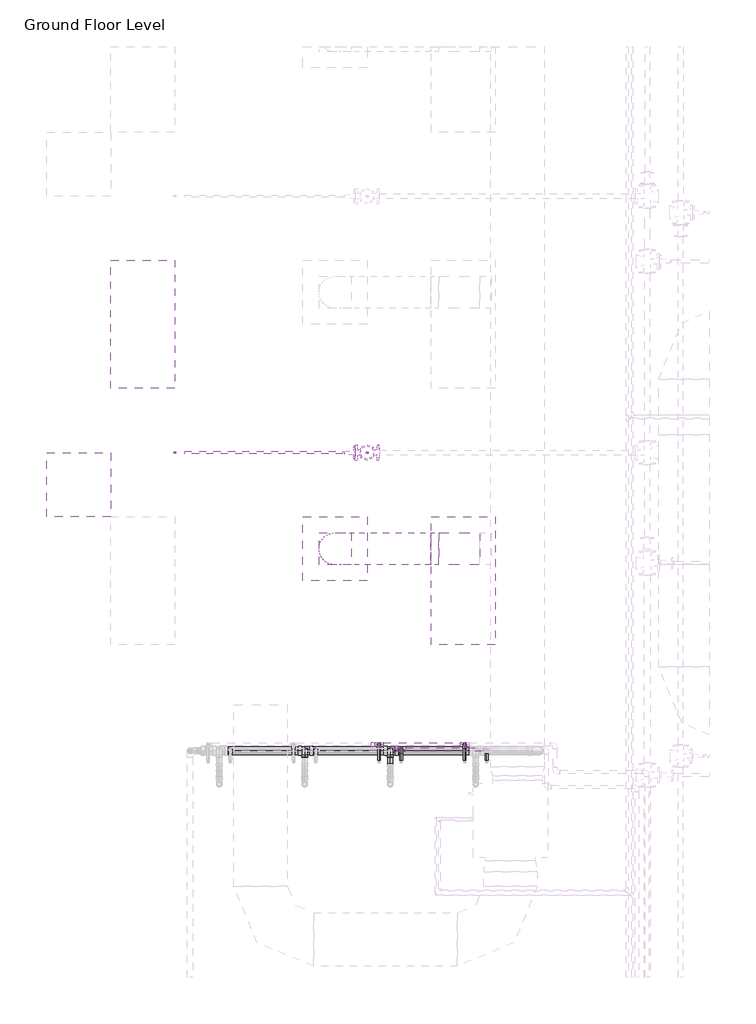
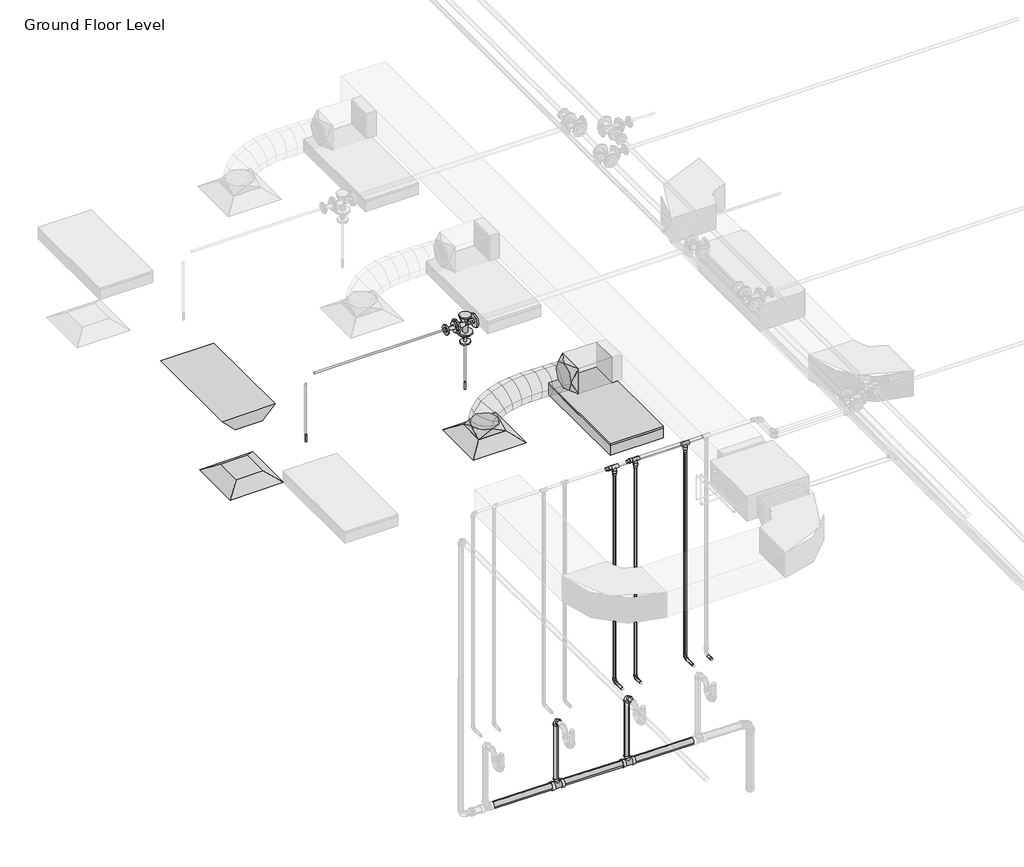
# One storey, part 24 of 74: 18 pipe fittings, 18 pipe segments, 2 air terminals, 2 duct fittings, 2 duct segments, 2 fire suppression terminals, 2 light fixtures.
"""IFC4 building model written with IfcOpenShell, lengths in millimetres."""

from ifc_helpers import new_model, si_unit, point, frame, frame_2d, origin, place, context, project, spatial, polyline, circle_curve, ellipse_curve, trimmed, segment, composite_curve, outline, extrude, transform, mapped, element, save
from ifc_brep_helpers import plane_surface, cylinder_surface, advanced_brep
from components import m_return_diffuser_600_x_600_face_300_x_300_connection_ff221211, m_rectangular_to_round_transition_angle_45_degree_641efff0, m_sprinkler_dry_pendent_hosted_15_mm_dry_pendent_9bda8e11, m_emergency_recessed_lighting_fixture_600x1200_277_5b10b25d, m_troffer_light_parabolic_rectangular1_0600x1200mm_4_lamp_86473d4a, m_bend_pvc_sch_40_dwv_standard_1e7bdcc1, m_bend_pvc_sch_40_dwv_standard_b3f66ba9, m_reducer_flanged_cs_class_150_standard_dc68ad9d, m_tee_reducing_sanitary_pvc_sch_40_dwv_standard_21d2848c, m_tee_round_base_flanged_cs_class_150_standard_ab36f383, standard_b266ab3f, standard_72b35c3b, standard_e954f56a, standard_e5aa6446

model = new_model("IFC4")

# Units and contexts
model_context = context("Model", 3, world=origin())
ifc_project = project(units=[si_unit("LENGTHUNIT", "METRE", prefix="MILLI")], contexts=[model_context])

# Site, building, storey
site = spatial("IfcSite", under=ifc_project)
building = spatial("IfcBuilding", under=site)
storey = spatial("IfcBuildingStorey", under=building, Name="Ground Floor Level", Elevation=900.0)

# Air terminals
placement = place(None, origin())
m_return_diffuser_600_x_600_face_300_x_300_connection_shape = m_return_diffuser_600_x_600_face_300_x_300_connection_ff221211(model_context)
element("IfcAirTerminal", 1, ObjectType="M_Return Diffuser : 600 x 600 Face 300 x 300 Connection", at=placement, inside=storey, context=model_context, shape_type="MappedRepresentation", body=[
    mapped(m_return_diffuser_600_x_600_face_300_x_300_connection_shape, transform((362.7672395, -21364.7846466, 3650.0), x_axis=(1.0, 0.0, 0.0), y_axis=(0.0, 1.0, 0.0), z_axis=(0.0, 0.0, 1.0))),
])
element("IfcAirTerminal", 2, ObjectType="M_Supply Diffuser : 600 x 600 Face 300 x 300 Connection", at=placement, inside=storey, context=model_context, shape_type="MappedRepresentation", body=[
    mapped(m_return_diffuser_600_x_600_face_300_x_300_connection_shape, transform((2762.7672395, -21964.7846466, 3650.0), x_axis=(1.0, 0.0, 0.0), y_axis=(0.0, 1.0, 0.0), z_axis=(0.0, 0.0, 1.0))),
])

# Duct fittings
m_rectangular_to_round_transition_angle_45_degree_shape = m_rectangular_to_round_transition_angle_45_degree_641efff0(model_context)
element("IfcDuctFitting", 3, ObjectType="M_Rectangular to Round Transition - Angle : 45 Degree", at=placement, inside=storey, context=model_context, shape_type="MappedRepresentation", body=[
    mapped(m_rectangular_to_round_transition_angle_45_degree_shape, transform((2762.7672395, -21964.7846466, 3751.6), x_axis=(0.0, 0.0, 1.0), y_axis=(-1.0, 0.0, 0.0), z_axis=(0.0, -1.0, 0.0))),
])
element("IfcDuctFitting", 4, ObjectType="M_Rectangular to Round Transition - Angle : 45 Degree", at=placement, inside=storey, context=model_context, shape_type="MappedRepresentation", body=[
    mapped(m_rectangular_to_round_transition_angle_45_degree_shape, transform((3732.9512129, -21964.7846466, 4057.1519579), x_axis=(-1.0, 0.0, 0.0), y_axis=(0.0, -1.0, 0.0), z_axis=(0.0, 0.0, 1.0))),
])

# Duct segments
element("IfcDuctSegment", 5, ObjectType="Flex - Round", at=placement, inside=storey, context=model_context, shape_type="AdvancedBrep", body=[
    advanced_brep(
    [(2912.7672395, -21964.7846466, 3826.6), (2762.7672395, -22114.7846466, 3826.6), (2612.7672395, -21964.7846466, 3826.6), (2762.7672395, -21814.7846466, 3826.6), (2912.7672395, -21964.7846466, 3832.8904143), (2762.7672395, -22114.7846466, 3856.8494149), (2612.7672395, -21964.7846466, 3880.8084155), (2762.7672395, -21814.7846466, 3856.8494149), (2914.0859082, -21964.7846466, 3836.9129923), (2779.5128239, -22114.7846466, 3907.9315565), (2644.9397396, -21964.7846466, 3978.9501208), (2779.5128239, -21814.7846466, 3907.9315565), (2928.1338147, -21964.7846466, 3855.2244817), (2826.2856906, -22114.7846466, 3968.9001322), (2724.4375665, -21964.7846466, 4082.5757828), (2826.2856906, -21814.7846466, 3968.9001322), (2960.075367, -21964.7846466, 3874.5779986), (2897.8900097, -22114.7846466, 4012.2854816), (2835.7046525, -21964.7846466, 4149.9929645), (2897.8900097, -21814.7846466, 4012.2854816), (3023.3471395, -21964.7846466, 3894.3985509), (2989.1299517, -22114.7846466, 4040.8673589), (2954.9127638, -21964.7846466, 4187.3361668), (2989.1299517, -21814.7846466, 4040.8673589), (3111.2174774, -21964.7846466, 3908.1662907), (3094.8096865, -22114.7846466, 4057.4255186), (3078.4018957, -21964.7846466, 4206.6847465), (3094.8096865, -21814.7846466, 4057.4255186), (3215.0370803, -21964.7846466, 3914.773779), (3209.7333846, -22114.7846466, 4064.7397152), (3204.4296888, -21964.7846466, 4214.7056514), (3209.7333846, -21814.7846466, 4064.7397152), (3327.4369923, -21964.7846466, 3915.576814), (3328.705216, -22114.7846466, 4065.589703), (3329.9734397, -21964.7846466, 4215.6025919), (3328.705216, -21814.7846466, 4065.589703), (3442.2113611, -21964.7846466, 3912.815715), (3446.529351, -22114.7846466, 4062.7552364), (3450.847341, -21964.7846466, 4212.6947579), (3446.529351, -21814.7846466, 4062.7552364), (3554.0566752, -21964.7846466, 3909.0643159), (3558.0099599, -22114.7846466, 4059.0160699), (3561.9632447, -21964.7846466, 4208.9678239), (3558.0099599, -21814.7846466, 4059.0160699), (3657.9512129, -21964.7846466, 3907.1519579), (3657.9512129, -21814.7846466, 4057.1519579), (3657.9512129, -21964.7846466, 4207.1519579), (3657.9512129, -22114.7846466, 4057.1519579), (3653.7148319, -21964.7846466, 3907.1519579), (3655.1538878, -22114.7846466, 4057.1519579), (3656.5929436, -21964.7846466, 4207.1519579), (3655.1538878, -21814.7846466, 4057.1519579)],
    [
        (0, 1, circle_curve(frame((2762.7672395, -21964.7846466, 3826.6), z_axis=(0.0, 0.0, -1.0), x_axis=(1.0, 0.0, 0.0)), 150.0)),
        (1, 2, circle_curve(frame((2762.7672395, -21964.7846466, 3826.6), z_axis=(0.0, 0.0, -1.0), x_axis=(1.0, 0.0, 0.0)), 150.0)),
        (2, 3, circle_curve(frame((2762.7672395, -21964.7846466, 3826.6), z_axis=(0.0, 0.0, -1.0), x_axis=(1.0, 0.0, 0.0)), 150.0)),
        (3, 0, circle_curve(frame((2762.7672395, -21964.7846466, 3826.6), z_axis=(0.0, 0.0, -1.0), x_axis=(1.0, 0.0, 0.0)), 150.0)),
        (0, 4),
        (4, 5, ellipse_curve(frame((2762.7672395, -21964.7846466, 3856.8494149), z_axis=(-0.1577273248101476, 0.0, -0.9874827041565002), x_axis=(0.9874827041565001, 0.0, -0.1577273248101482)), 151.9013947, 150.0)),
        (5, 1),
        (5, 6, ellipse_curve(frame((2762.7672395, -21964.7846466, 3856.8494149), z_axis=(-0.1577273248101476, 0.0, -0.9874827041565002), x_axis=(0.9874827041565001, 0.0, -0.1577273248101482)), 151.9013947, 150.0)),
        (6, 2),
        (6, 7, ellipse_curve(frame((2762.7672395, -21964.7846466, 3856.8494149), z_axis=(-0.1577273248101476, 0.0, -0.9874827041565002), x_axis=(0.9874827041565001, 0.0, -0.1577273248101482)), 151.9013947, 150.0)),
        (7, 3),
        (7, 4, ellipse_curve(frame((2762.7672395, -21964.7846466, 3856.8494149), z_axis=(-0.1577273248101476, 0.0, -0.9874827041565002), x_axis=(0.9874827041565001, 0.0, -0.1577273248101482)), 151.9013947, 150.0)),
        (4, 8),
        (8, 9, ellipse_curve(frame((2779.5128239, -21964.7846466, 3907.9315565), z_axis=(-0.46672716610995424, 0.0, -0.8844013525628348), x_axis=(0.8844013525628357, 0.0, -0.466727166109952)), 152.162911, 150.0)),
        (9, 5),
        (9, 10, ellipse_curve(frame((2779.5128239, -21964.7846466, 3907.9315565), z_axis=(-0.46672716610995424, 0.0, -0.8844013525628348), x_axis=(0.8844013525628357, 0.0, -0.466727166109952)), 152.162911, 150.0)),
        (10, 6),
        (10, 11, ellipse_curve(frame((2779.5128239, -21964.7846466, 3907.9315565), z_axis=(-0.46672716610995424, 0.0, -0.8844013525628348), x_axis=(0.8844013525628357, 0.0, -0.466727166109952)), 152.162911, 150.0)),
        (11, 7),
        (11, 8, ellipse_curve(frame((2779.5128239, -21964.7846466, 3907.9315565), z_axis=(-0.46672716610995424, 0.0, -0.8844013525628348), x_axis=(0.8844013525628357, 0.0, -0.466727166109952)), 152.162911, 150.0)),
        (8, 12),
        (12, 13, ellipse_curve(frame((2826.2856906, -21964.7846466, 3968.9001322), z_axis=(-0.744790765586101, 0.0, -0.6672980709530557), x_axis=(0.6672980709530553, 0.0, -0.7447907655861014)), 152.6276316, 150.0)),
        (13, 9),
        (13, 14, ellipse_curve(frame((2826.2856906, -21964.7846466, 3968.9001322), z_axis=(-0.744790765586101, 0.0, -0.6672980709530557), x_axis=(0.6672980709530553, 0.0, -0.7447907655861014)), 152.6276316, 150.0)),
        (14, 10),
        (14, 15, ellipse_curve(frame((2826.2856906, -21964.7846466, 3968.9001322), z_axis=(-0.744790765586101, 0.0, -0.6672980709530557), x_axis=(0.6672980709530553, 0.0, -0.7447907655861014)), 152.6276316, 150.0)),
        (15, 11),
        (15, 12, ellipse_curve(frame((2826.2856906, -21964.7846466, 3968.9001322), z_axis=(-0.744790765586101, 0.0, -0.6672980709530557), x_axis=(0.6672980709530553, 0.0, -0.7447907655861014)), 152.6276316, 150.0)),
        (12, 16),
        (16, 17, ellipse_curve(frame((2897.8900097, -21964.7846466, 4012.2854816), z_axis=(-0.9113833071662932, 0.0, -0.41155858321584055), x_axis=(0.41155858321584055, 0.0, -0.9113833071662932)), 151.0972187, 150.0)),
        (17, 13),
        (17, 18, ellipse_curve(frame((2897.8900097, -21964.7846466, 4012.2854816), z_axis=(-0.9113833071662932, 0.0, -0.41155858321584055), x_axis=(0.41155858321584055, 0.0, -0.9113833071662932)), 151.0972187, 150.0)),
        (18, 14),
        (18, 19, ellipse_curve(frame((2897.8900097, -21964.7846466, 4012.2854816), z_axis=(-0.9113833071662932, 0.0, -0.41155858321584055), x_axis=(0.41155858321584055, 0.0, -0.9113833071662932)), 151.0972187, 150.0)),
        (19, 15),
        (19, 16, ellipse_curve(frame((2897.8900097, -21964.7846466, 4012.2854816), z_axis=(-0.9113833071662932, 0.0, -0.41155858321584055), x_axis=(0.41155858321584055, 0.0, -0.9113833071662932)), 151.0972187, 150.0)),
        (16, 20),
        (20, 21, ellipse_curve(frame((2989.1299517, -21964.7846466, 4040.8673589), z_axis=(-0.9737806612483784, 0.0, -0.22748895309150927), x_axis=(0.22748895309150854, 0.0, -0.9737806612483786)), 150.4125249, 150.0)),
        (21, 17),
        (21, 22, ellipse_curve(frame((2989.1299517, -21964.7846466, 4040.8673589), z_axis=(-0.9737806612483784, 0.0, -0.22748895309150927), x_axis=(0.22748895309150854, 0.0, -0.9737806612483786)), 150.4125249, 150.0)),
        (22, 18),
        (22, 23, ellipse_curve(frame((2989.1299517, -21964.7846466, 4040.8673589), z_axis=(-0.9737806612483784, 0.0, -0.22748895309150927), x_axis=(0.22748895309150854, 0.0, -0.9737806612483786)), 150.4125249, 150.0)),
        (23, 19),
        (23, 20, ellipse_curve(frame((2989.1299517, -21964.7846466, 4040.8673589), z_axis=(-0.9737806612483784, 0.0, -0.22748895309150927), x_axis=(0.22748895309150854, 0.0, -0.9737806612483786)), 150.4125249, 150.0)),
        (20, 24),
        (24, 25, ellipse_curve(frame((3094.8096865, -21964.7846466, 4057.4255186), z_axis=(-0.9940121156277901, 0.0, -0.109269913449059), x_axis=(0.10926991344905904, 0.0, -0.9940121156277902)), 150.1583588, 150.0)),
        (25, 21),
        (25, 26, ellipse_curve(frame((3094.8096865, -21964.7846466, 4057.4255186), z_axis=(-0.9940121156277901, 0.0, -0.109269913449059), x_axis=(0.10926991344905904, 0.0, -0.9940121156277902)), 150.1583588, 150.0)),
        (26, 22),
        (26, 27, ellipse_curve(frame((3094.8096865, -21964.7846466, 4057.4255186), z_axis=(-0.9940121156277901, 0.0, -0.109269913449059), x_axis=(0.10926991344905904, 0.0, -0.9940121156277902)), 150.1583588, 150.0)),
        (27, 23),
        (27, 24, ellipse_curve(frame((3094.8096865, -21964.7846466, 4057.4255186), z_axis=(-0.9940121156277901, 0.0, -0.109269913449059), x_axis=(0.10926991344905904, 0.0, -0.9940121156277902)), 150.1583588, 150.0)),
        (24, 28),
        (28, 29, ellipse_curve(frame((3209.7333846, -21964.7846466, 4064.7397152), z_axis=(-0.9993752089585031, 0.0, -0.035343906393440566), x_axis=(0.035343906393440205, 0.0, -0.9993752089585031)), 150.0596922, 150.0)),
        (29, 25),
        (29, 30, ellipse_curve(frame((3209.7333846, -21964.7846466, 4064.7397152), z_axis=(-0.9993752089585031, 0.0, -0.035343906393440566), x_axis=(0.035343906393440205, 0.0, -0.9993752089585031)), 150.0596922, 150.0)),
        (30, 26),
        (30, 31, ellipse_curve(frame((3209.7333846, -21964.7846466, 4064.7397152), z_axis=(-0.9993752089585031, 0.0, -0.035343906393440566), x_axis=(0.035343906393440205, 0.0, -0.9993752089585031)), 150.0596922, 150.0)),
        (31, 27),
        (31, 28, ellipse_curve(frame((3209.7333846, -21964.7846466, 4064.7397152), z_axis=(-0.9993752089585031, 0.0, -0.035343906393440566), x_axis=(0.035343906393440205, 0.0, -0.9993752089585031)), 150.0596922, 150.0)),
        (28, 32),
        (32, 33, ellipse_curve(frame((3328.705216, -21964.7846466, 4065.589703), z_axis=(-0.9999642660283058, 0.0, 0.008453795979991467), x_axis=(-0.00845379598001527, 0.0, -0.9999642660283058)), 150.0182497, 150.0)),
        (33, 29),
        (33, 34, ellipse_curve(frame((3328.705216, -21964.7846466, 4065.589703), z_axis=(-0.9999642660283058, 0.0, 0.008453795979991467), x_axis=(-0.00845379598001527, 0.0, -0.9999642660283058)), 150.0182497, 150.0)),
        (34, 30),
        (34, 35, ellipse_curve(frame((3328.705216, -21964.7846466, 4065.589703), z_axis=(-0.9999642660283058, 0.0, 0.008453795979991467), x_axis=(-0.00845379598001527, 0.0, -0.9999642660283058)), 150.0182497, 150.0)),
        (35, 31),
        (35, 32, ellipse_curve(frame((3328.705216, -21964.7846466, 4065.589703), z_axis=(-0.9999642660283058, 0.0, 0.008453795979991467), x_axis=(-0.00845379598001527, 0.0, -0.9999642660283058)), 150.0182497, 150.0)),
        (32, 36),
        (36, 37, ellipse_curve(frame((3446.529351, -21964.7846466, 4062.7552364), z_axis=(-0.9995855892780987, 0.0, 0.028786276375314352), x_axis=(-0.028786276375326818, 0.0, -0.9995855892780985)), 150.0016838, 150.0)),
        (37, 33),
        (37, 38, ellipse_curve(frame((3446.529351, -21964.7846466, 4062.7552364), z_axis=(-0.9995855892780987, 0.0, 0.028786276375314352), x_axis=(-0.028786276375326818, 0.0, -0.9995855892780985)), 150.0016838, 150.0)),
        (38, 34),
        (38, 39, ellipse_curve(frame((3446.529351, -21964.7846466, 4062.7552364), z_axis=(-0.9995855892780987, 0.0, 0.028786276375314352), x_axis=(-0.028786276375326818, 0.0, -0.9995855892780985)), 150.0016838, 150.0)),
        (39, 35),
        (39, 36, ellipse_curve(frame((3446.529351, -21964.7846466, 4062.7552364), z_axis=(-0.9995855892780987, 0.0, 0.028786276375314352), x_axis=(-0.028786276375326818, 0.0, -0.9995855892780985)), 150.0016838, 150.0)),
        (36, 40),
        (40, 41, ellipse_curve(frame((3558.0099599, -21964.7846466, 4059.0160699), z_axis=(-0.999652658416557, 0.0, 0.026354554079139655), x_axis=(0.026354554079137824, 0.0, 0.9996526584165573)), 150.0038566, 150.0)),
        (41, 37),
        (41, 42, ellipse_curve(frame((3558.0099599, -21964.7846466, 4059.0160699), z_axis=(-0.999652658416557, 0.0, 0.026354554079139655), x_axis=(0.026354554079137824, 0.0, 0.9996526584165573)), 150.0038566, 150.0)),
        (42, 38),
        (42, 43, ellipse_curve(frame((3558.0099599, -21964.7846466, 4059.0160699), z_axis=(-0.999652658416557, 0.0, 0.026354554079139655), x_axis=(0.026354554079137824, 0.0, 0.9996526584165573)), 150.0038566, 150.0)),
        (43, 39),
        (43, 40, ellipse_curve(frame((3558.0099599, -21964.7846466, 4059.0160699), z_axis=(-0.999652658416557, 0.0, 0.026354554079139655), x_axis=(0.026354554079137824, 0.0, 0.9996526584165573)), 150.0038566, 150.0)),
        (44, 45, circle_curve(frame((3657.9512129, -21964.7846466, 4057.1519579), z_axis=(1.0, 0.0, 0.0), x_axis=(0.0, 0.0, -1.0)), 150.0)),
        (45, 46, circle_curve(frame((3657.9512129, -21964.7846466, 4057.1519579), z_axis=(1.0, 0.0, 0.0), x_axis=(0.0, 0.0, -1.0)), 150.0)),
        (46, 47, circle_curve(frame((3657.9512129, -21964.7846466, 4057.1519579), z_axis=(1.0, 0.0, 0.0), x_axis=(0.0, 0.0, -1.0)), 150.0)),
        (47, 44, circle_curve(frame((3657.9512129, -21964.7846466, 4057.1519579), z_axis=(1.0, 0.0, 0.0), x_axis=(0.0, 0.0, -1.0)), 150.0)),
        (40, 48),
        (48, 49, ellipse_curve(frame((3655.1538878, -21964.7846466, 4057.1519579), z_axis=(-0.9999539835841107, 0.0, 0.009593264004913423), x_axis=(0.009593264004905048, 0.0, 0.9999539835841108)), 150.0069028, 150.0)),
        (49, 41),
        (49, 50, ellipse_curve(frame((3655.1538878, -21964.7846466, 4057.1519579), z_axis=(-0.9999539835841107, 0.0, 0.009593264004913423), x_axis=(0.009593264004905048, 0.0, 0.9999539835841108)), 150.0069028, 150.0)),
        (50, 42),
        (50, 51, ellipse_curve(frame((3655.1538878, -21964.7846466, 4057.1519579), z_axis=(-0.9999539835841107, 0.0, 0.009593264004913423), x_axis=(0.009593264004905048, 0.0, 0.9999539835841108)), 150.0069028, 150.0)),
        (51, 43),
        (51, 48, ellipse_curve(frame((3655.1538878, -21964.7846466, 4057.1519579), z_axis=(-0.9999539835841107, 0.0, 0.009593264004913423), x_axis=(0.009593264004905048, 0.0, 0.9999539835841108)), 150.0069028, 150.0)),
        (48, 44),
        (47, 49),
        (46, 50),
        (45, 51),
    ],
    [
        plane_surface(frame((2762.7672395, -22114.7846466, 3826.6), z_axis=(0.0, 0.0, -1.0), x_axis=(1.0, 0.0, 0.0))),
        cylinder_surface(frame((2762.7672395, -21964.7846466, 3826.6), z_axis=(0.0, 0.0, -1.0), x_axis=(1.0, 0.0, 0.0)), 150.0),
        cylinder_surface(frame((2762.7672395, -21964.7846466, 3856.8494149), z_axis=(-0.3115060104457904, 0.0, -0.9502441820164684), x_axis=(0.9502441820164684, 0.0, -0.3115060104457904)), 150.0),
        cylinder_surface(frame((2779.5128239, -21964.7846466, 3907.9315565), z_axis=(-0.6086797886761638, 0.0, -0.7934159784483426), x_axis=(0.7934159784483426, 0.0, -0.6086797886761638)), 150.0),
        cylinder_surface(frame((2826.2856906, -21964.7846466, 3968.9001322), z_axis=(-0.8552571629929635, 0.0, -0.5182038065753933), x_axis=(0.5182038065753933, 0.0, -0.8552571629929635)), 150.0),
        cylinder_surface(frame((2897.8900097, -21964.7846466, 4012.2854816), z_axis=(-0.9542731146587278, 0.0, -0.29893615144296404), x_axis=(0.29893615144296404, 0.0, -0.9542731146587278)), 150.0),
        cylinder_surface(frame((2989.1299517, -21964.7846466, 4040.8673589), z_axis=(-0.9879467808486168, 0.0, -0.15479392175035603), x_axis=(0.15479392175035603, 0.0, -0.9879467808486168)), 150.0),
        cylinder_surface(frame((3094.8096865, -21964.7846466, 4057.4255186), z_axis=(-0.997980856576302, 0.0, -0.06351543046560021), x_axis=(0.06351543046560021, 0.0, -0.997980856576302)), 150.0),
        cylinder_surface(frame((3209.7333846, -21964.7846466, 4064.7397152), z_axis=(-0.9999744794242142, 0.0, -0.007144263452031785), x_axis=(0.007144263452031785, 0.0, -0.9999744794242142)), 150.0),
        cylinder_surface(frame((3328.705216, -21964.7846466, 4065.589703), z_axis=(-0.9997107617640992, 0.0, 0.024049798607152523), x_axis=(-0.024049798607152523, 0.0, -0.9997107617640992)), 150.0),
        cylinder_surface(frame((3446.529351, -21964.7846466, 4062.7552364), z_axis=(-0.9994379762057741, 0.0, 0.03352210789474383), x_axis=(-0.03352210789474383, 0.0, -0.9994379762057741)), 150.0),
        plane_surface(frame((3657.9512129, -21964.7846466, 3907.1519579), z_axis=(1.0, 0.0, 0.0), x_axis=(0.0, 1.0, 0.0))),
        cylinder_surface(frame((3558.0099599, -21964.7846466, 4059.0160699), z_axis=(-0.9998159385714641, 0.0, 0.01918564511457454), x_axis=(-0.01918564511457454, 0.0, -0.9998159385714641)), 150.0),
        cylinder_surface(frame((3655.1538878, -21964.7846466, 4057.1519579), z_axis=(-1.0, 0.0, 0.0), x_axis=(0.0, 0.0, -1.0)), 150.0),
    ],
    [
        (0, [[1, 2, 3, 4]]),
        (1, [[-1, 5, 6, 7]]),
        (1, [[-2, -7, 8, 9]]),
        (1, [[-3, -9, 10, 11]]),
        (1, [[-4, -11, 12, -5]]),
        (2, [[-6, 13, 14, 15]]),
        (2, [[-8, -15, 16, 17]]),
        (2, [[-10, -17, 18, 19]]),
        (2, [[-12, -19, 20, -13]]),
        (3, [[-14, 21, 22, 23]]),
        (3, [[-16, -23, 24, 25]]),
        (3, [[-18, -25, 26, 27]]),
        (3, [[-20, -27, 28, -21]]),
        (4, [[-22, 29, 30, 31]]),
        (4, [[-24, -31, 32, 33]]),
        (4, [[-26, -33, 34, 35]]),
        (4, [[-28, -35, 36, -29]]),
        (5, [[-30, 37, 38, 39]]),
        (5, [[-32, -39, 40, 41]]),
        (5, [[-34, -41, 42, 43]]),
        (5, [[-36, -43, 44, -37]]),
        (6, [[-38, 45, 46, 47]]),
        (6, [[-40, -47, 48, 49]]),
        (6, [[-42, -49, 50, 51]]),
        (6, [[-44, -51, 52, -45]]),
        (7, [[-46, 53, 54, 55]]),
        (7, [[-48, -55, 56, 57]]),
        (7, [[-50, -57, 58, 59]]),
        (7, [[-52, -59, 60, -53]]),
        (8, [[-54, 61, 62, 63]]),
        (8, [[-56, -63, 64, 65]]),
        (8, [[-58, -65, 66, 67]]),
        (8, [[-60, -67, 68, -61]]),
        (9, [[-62, 69, 70, 71]]),
        (9, [[-64, -71, 72, 73]]),
        (9, [[-66, -73, 74, 75]]),
        (9, [[-68, -75, 76, -69]]),
        (10, [[-70, 77, 78, 79]]),
        (10, [[-72, -79, 80, 81]]),
        (10, [[-74, -81, 82, 83]]),
        (10, [[-76, -83, 84, -77]]),
        (11, [[85, 86, 87, 88]]),
        (12, [[-78, 89, 90, 91]]),
        (12, [[-80, -91, 92, 93]]),
        (12, [[-82, -93, 94, 95]]),
        (12, [[-84, -95, 96, -89]]),
        (13, [[-90, 97, -88, 98]]),
        (13, [[-92, -98, -87, 99]]),
        (13, [[-94, -99, -86, 100]]),
        (13, [[-96, -100, -85, -97]]),
    ],
),
])
element("IfcDuctSegment", 6, ObjectType="Radius Elbows / Taps", at=placement, inside=storey, context=model_context, shape_type="SweptSolid", body=[
    extrude(outline(polyline([(4117.5581832, -21814.7846466), (4117.5581832, -22114.7846466), (3732.9512129, -22114.7846466), (3732.9512129, -21814.7846466), (4117.5581832, -21814.7846466)])), frame((0.0, 0.0, 3907.1519579), z_axis=(0.0, 0.0, 1.0), x_axis=(1.0, 0.0, 0.0)), (0.0, 0.0, 1.0), 300.0),
])

# Fire suppression terminals
m_sprinkler_dry_pendent_hosted_15_mm_dry_pendent_shape = m_sprinkler_dry_pendent_hosted_15_mm_dry_pendent_9bda8e11(model_context)
element("IfcFireSuppressionTerminal", 7, ObjectType="M_Sprinkler - Dry - Pendent - Hosted : 15 mm Dry Pendent", at=placement, inside=storey, context=model_context, shape_type="MappedRepresentation", body=[
    mapped(m_sprinkler_dry_pendent_hosted_15_mm_dry_pendent_shape, transform((1262.7672395, -21064.7846466, 3650.0), x_axis=(1.0, 0.0, 0.0), y_axis=(0.0, -1.0, 0.0), z_axis=(0.0, 0.0, -1.0))),
])
element("IfcFireSuppressionTerminal", 8, ObjectType="M_Sprinkler - Dry - Pendent - Hosted : 15 mm Dry Pendent", at=placement, inside=storey, context=model_context, shape_type="MappedRepresentation", body=[
    mapped(m_sprinkler_dry_pendent_hosted_15_mm_dry_pendent_shape, transform((3062.7672395, -21064.7846466, 3650.0), x_axis=(1.0, 0.0, 0.0), y_axis=(0.0, -1.0, 0.0), z_axis=(0.0, 0.0, -1.0))),
])

# Light fixtures
m_emergency_recessed_lighting_fixture_600x1200_277_shape = m_emergency_recessed_lighting_fixture_600x1200_277_5b10b25d(model_context)
element("IfcLightFixture", 9, ObjectType="M_Emergency Recessed Lighting Fixture : 600x1200 - 277", at=placement, inside=storey, context=model_context, shape_type="MappedRepresentation", body=[
    mapped(m_emergency_recessed_lighting_fixture_600x1200_277_shape, transform((662.7672395, -20464.7846466, 3650.0), x_axis=(0.0, 1.0, 0.0), y_axis=(-1.0, 0.0, 0.0), z_axis=(0.0, 0.0, 1.0))),
])
m_troffer_light_parabolic_rectangular1_0600x1200mm_4_lamp_shape = m_troffer_light_parabolic_rectangular1_0600x1200mm_4_lamp_86473d4a(model_context)
element("IfcLightFixture", 10, ObjectType="M_Troffer Light - Parabolic Rectangular1 : 0600x1200mm(4 Lamp) - 277V 2", at=placement, inside=storey, context=model_context, shape_type="MappedRepresentation", body=[
    mapped(m_troffer_light_parabolic_rectangular1_0600x1200mm_4_lamp_shape, transform((3903.3013074, -22246.081145, 3650.0), x_axis=(0.0, 1.0, 0.0), y_axis=(-1.0, 0.0, 0.0), z_axis=(0.0, 0.0, 1.0))),
])

# Pipe fittings
m_bend_pvc_sch_40_dwv_standard_shape = m_bend_pvc_sch_40_dwv_standard_1e7bdcc1(model_context)
element("IfcPipeFitting", 11, ObjectType="M_Bend - PVC - Sch 40 - DWV : Standard", at=placement, inside=storey, context=model_context, shape_type="MappedRepresentation", body=[
    mapped(m_bend_pvc_sch_40_dwv_standard_shape, transform((2479.14976, -23854.2948449, 1508.2594199), x_axis=(0.0, 0.9999500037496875, -0.00999950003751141), y_axis=(0.0, -0.00999950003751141, -0.9999500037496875), z_axis=(-1.0, 0.0, 0.0))),
])
m_bend_pvc_sch_40_dwv_standard_2_shape = m_bend_pvc_sch_40_dwv_standard_b3f66ba9(model_context)
element("IfcPipeFitting", 12, ObjectType="M_Bend - PVC - Sch 40 - DWV : Standard", at=placement, inside=storey, context=model_context, shape_type="MappedRepresentation", body=[
    mapped(m_bend_pvc_sch_40_dwv_standard_2_shape, transform((3279.14976, -23854.2948449, 1508.2594199), x_axis=(0.0, 0.9999578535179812, -0.009181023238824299), y_axis=(0.0, -0.009181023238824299, -0.9999578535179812), z_axis=(-1.0, 0.0, 0.0))),
])
m_reducer_flanged_cs_class_150_standard_shape = m_reducer_flanged_cs_class_150_standard_dc68ad9d(model_context)
element("IfcPipeFitting", 13, ObjectType="M_Reducer - Flanged - CS - Class 150 : Standard", at=placement, inside=storey, context=model_context, shape_type="MappedRepresentation", body=[
    mapped(m_reducer_flanged_cs_class_150_standard_shape, transform((2950.5086457, -21064.7846466, 4347.5), x_axis=(-1.0, 0.0, 0.0), y_axis=(0.0, 0.0, 1.0), z_axis=(0.0, 1.0, 0.0))),
])
element("IfcPipeFitting", 14, ObjectType="M_Reducer - Flanged - CS - Class 150 : Standard", at=placement, inside=storey, context=model_context, shape_type="MappedRepresentation", body=[
    mapped(m_reducer_flanged_cs_class_150_standard_shape, transform((3062.7672395, -21064.7846466, 4235.2414062), x_axis=(0.0, 0.0, -1.0), y_axis=(-1.0, 0.0, 0.0), z_axis=(0.0, 1.0, 0.0))),
])
m_tee_reducing_sanitary_pvc_sch_40_dwv_standard_shape = m_tee_reducing_sanitary_pvc_sch_40_dwv_standard_21d2848c(model_context)
element("IfcPipeFitting", 15, ObjectType="M_Tee Reducing Sanitary - PVC - Sch 40 - DWV : Standard", at=placement, inside=storey, context=model_context, shape_type="MappedRepresentation", body=[
    mapped(m_tee_reducing_sanitary_pvc_sch_40_dwv_standard_shape, transform((2479.3782372, -23854.2948449, 729.0632162), x_axis=(-0.9999500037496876, 0.0, 0.009999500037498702), y_axis=(-0.009999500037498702, 0.0, -0.9999500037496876), z_axis=(0.0, -1.0, 0.0))),
])
element("IfcPipeFitting", 16, ObjectType="M_Tee Reducing Sanitary - PVC - Sch 40 - DWV : Standard", at=placement, inside=storey, context=model_context, shape_type="MappedRepresentation", body=[
    mapped(m_tee_reducing_sanitary_pvc_sch_40_dwv_standard_shape, transform((3279.3782372, -23854.2948449, 721.0632162), x_axis=(-0.9999500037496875, 0.0, 0.009999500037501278), y_axis=(-0.009999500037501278, 0.0, -0.9999500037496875), z_axis=(0.0, -1.0, 0.0))),
])
m_tee_round_base_flanged_cs_class_150_standard_shape = m_tee_round_base_flanged_cs_class_150_standard_ab36f383(model_context)
element("IfcPipeFitting", 17, ObjectType="M_Tee Round Base - Flanged - CS - Class 150 : Standard", at=placement, inside=storey, context=model_context, shape_type="MappedRepresentation", body=[
    mapped(m_tee_round_base_flanged_cs_class_150_standard_shape, transform((3062.7672395, -21064.7846466, 4347.5), x_axis=(-1.0, 0.0, 0.0), y_axis=(0.0, 0.0, 1.0), z_axis=(0.0, 1.0, 0.0))),
])
standard_shape = standard_b266ab3f(model_context)
element("IfcPipeFitting", 18, ObjectType="M_Elbow - CPVC - Sch 40 : Standard", at=placement, inside=storey, context=model_context, shape_type="MappedRepresentation", body=[
    mapped(standard_shape, transform((3383.0647206, -23844.7846466, 1690.0), x_axis=(0.0, 0.0, -1.0), y_axis=(0.0, -1.0, 0.0), z_axis=(-1.0, 0.0, 0.0))),
])
element("IfcPipeFitting", 19, ObjectType="M_Elbow - CPVC - Sch 40 : Standard", at=placement, inside=storey, context=model_context, shape_type="MappedRepresentation", body=[
    mapped(standard_shape, transform((3174.4348794, -23794.921633, 1690.0), x_axis=(0.0, 1.0, 0.0), y_axis=(0.0, 0.0, 1.0), z_axis=(1.0, 0.0, 0.0))),
])
element("IfcPipeFitting", 20, ObjectType="M_Elbow - CPVC - Sch 40 : Standard", at=placement, inside=storey, context=model_context, shape_type="MappedRepresentation", body=[
    mapped(standard_shape, transform((3974.4348794, -23794.921633, 1690.0), x_axis=(0.0, 1.0, 0.0), y_axis=(0.0, 0.0, 1.0), z_axis=(1.0, 0.0, 0.0))),
])
standard_2_shape = standard_72b35c3b(model_context)
element("IfcPipeFitting", 21, ObjectType="M_Tee - CPVC - Sch 40 : Standard", at=placement, inside=storey, context=model_context, shape_type="MappedRepresentation", body=[
    mapped(standard_2_shape, transform((3383.0647206, -23844.7846466, 4300.0), x_axis=(1.0, 0.0, 0.0), y_axis=(0.0, 0.0, 1.0), z_axis=(0.0, -1.0, 0.0))),
])
element("IfcPipeFitting", 22, ObjectType="M_Tee - CPVC - Sch 40 : Standard", at=placement, inside=storey, context=model_context, shape_type="MappedRepresentation", body=[
    mapped(standard_2_shape, transform((3174.4348794, -23794.921633, 4250.0), x_axis=(-1.0, 0.0, 0.0), y_axis=(0.0, 0.0, 1.0), z_axis=(0.0, 1.0, 0.0))),
])
element("IfcPipeFitting", 23, ObjectType="M_Tee - CPVC - Sch 40 : Standard", at=placement, inside=storey, context=model_context, shape_type="MappedRepresentation", body=[
    mapped(standard_2_shape, transform((3974.4348794, -23794.921633, 4250.0), x_axis=(-1.0, 0.0, 0.0), y_axis=(0.0, 0.0, 1.0), z_axis=(0.0, 1.0, 0.0))),
])
standard_3_shape = standard_e954f56a(model_context)
element("IfcPipeFitting", 24, ObjectType="M_Coupling Reducing - CPVC - Sch 40 : Standard", at=placement, inside=storey, context=model_context, shape_type="MappedRepresentation", body=[
    mapped(standard_3_shape, transform((3343.3645206, -23844.7846466, 4300.0), x_axis=(-1.0, 0.0, 0.0), y_axis=(0.0, -1.0, 0.0), z_axis=(0.0, 0.0, 1.0))),
])
element("IfcPipeFitting", 25, ObjectType="M_Coupling Reducing - CPVC - Sch 40 : Standard", at=placement, inside=storey, context=model_context, shape_type="MappedRepresentation", body=[
    mapped(standard_3_shape, transform((3383.0647206, -23844.7846466, 4260.2998), x_axis=(0.0, 0.0, -1.0), y_axis=(1.0, 0.0, 0.0), z_axis=(0.0, -1.0, 0.0))),
])
element("IfcPipeFitting", 26, ObjectType="M_Coupling Reducing - CPVC - Sch 40 : Standard", at=placement, inside=storey, context=model_context, shape_type="MappedRepresentation", body=[
    mapped(standard_3_shape, transform((3174.4348794, -23794.921633, 4210.2998), x_axis=(0.0, 0.0, -1.0), y_axis=(-1.0, 0.0, 0.0), z_axis=(0.0, 1.0, 0.0))),
])
element("IfcPipeFitting", 27, ObjectType="M_Coupling Reducing - CPVC - Sch 40 : Standard", at=placement, inside=storey, context=model_context, shape_type="MappedRepresentation", body=[
    mapped(standard_3_shape, transform((3974.4348794, -23794.921633, 4210.2998), x_axis=(0.0, 0.0, -1.0), y_axis=(-1.0, 0.0, 0.0), z_axis=(0.0, 1.0, 0.0))),
])
standard_4_shape = standard_e5aa6446(model_context)
element("IfcPipeFitting", 28, ObjectType="M_Coupling Reducing - CPVC - Sch 40 : Standard", at=placement, inside=storey, context=model_context, shape_type="MappedRepresentation", body=[
    mapped(standard_4_shape, transform((3134.7346794, -23794.921633, 4250.0), x_axis=(-1.0, 0.0, 0.0), y_axis=(0.0, -1.0, 0.0), z_axis=(0.0, 0.0, 1.0))),
])

# Pipe segments
element("IfcPipeSegment", 29, ObjectType="CPVC", at=placement, inside=storey, context=model_context, shape_type="SweptSolid", body=[
    extrude(outline(composite_curve([segment(trimmed(circle_curve(frame_2d((1690.0, 4183.0647206)), 13.335), [point((1690.0, 4196.3997206))], [point((1703.335, 4183.0647206))], False, "CARTESIAN"), True, "CONTINUOUS"), segment(trimmed(circle_curve(frame_2d((1690.0, 4183.0647206)), 13.335), [point((1703.335, 4183.0647206))], [point((1690.0, 4169.7297206))], False, "CARTESIAN"), True, "CONTINUOUS"), segment(trimmed(circle_curve(frame_2d((1690.0, 4183.0647206)), 13.335), [point((1690.0, 4169.7297206))], [point((1676.665, 4183.0647206))], False, "CARTESIAN"), True, "CONTINUOUS"), segment(trimmed(circle_curve(frame_2d((1690.0, 4183.0647206)), 13.335), [point((1676.665, 4183.0647206))], [point((1690.0, 4196.3997206))], False, "CARTESIAN"), True, "CONTINUOUS")], self_intersect=False)), frame((0.0, -23944.7846466, 0.0), z_axis=(0.0, 1.0, 0.0), x_axis=(0.0, 0.0, 1.0)), (0.0, 0.0, 1.0), 64.67495),
])
element("IfcPipeSegment", 30, ObjectType="CPVC", at=placement, inside=storey, context=model_context, shape_type="SweptSolid", body=[
    extrude(outline(composite_curve([segment(trimmed(circle_curve(frame_2d((1690.0, 3383.0647206)), 13.335), [point((1690.0, 3396.3997206))], [point((1703.335, 3383.0647206))], False, "CARTESIAN"), True, "CONTINUOUS"), segment(trimmed(circle_curve(frame_2d((1690.0, 3383.0647206)), 13.335), [point((1703.335, 3383.0647206))], [point((1690.0, 3369.7297206))], False, "CARTESIAN"), True, "CONTINUOUS"), segment(trimmed(circle_curve(frame_2d((1690.0, 3383.0647206)), 13.335), [point((1690.0, 3369.7297206))], [point((1676.665, 3383.0647206))], False, "CARTESIAN"), True, "CONTINUOUS"), segment(trimmed(circle_curve(frame_2d((1690.0, 3383.0647206)), 13.335), [point((1676.665, 3383.0647206))], [point((1690.0, 3396.3997206))], False, "CARTESIAN"), True, "CONTINUOUS")], self_intersect=False)), frame((0.0, -23944.7846466, 0.0), z_axis=(0.0, 1.0, 0.0), x_axis=(0.0, 0.0, 1.0)), (0.0, 0.0, 1.0), 64.67495),
])
element("IfcPipeSegment", 31, ObjectType="CPVC", at=placement, inside=storey, context=model_context, shape_type="SweptSolid", body=[
    extrude(outline(composite_curve([segment(trimmed(circle_curve(frame_2d((3383.0647206, -23844.7846466)), 13.335), [point((3396.3997206, -23844.7846466))], [point((3383.0647206, -23858.1196466))], False, "CARTESIAN"), True, "CONTINUOUS"), segment(trimmed(circle_curve(frame_2d((3383.0647206, -23844.7846466)), 13.335), [point((3383.0647206, -23858.1196466))], [point((3369.7297206, -23844.7846466))], False, "CARTESIAN"), True, "CONTINUOUS"), segment(trimmed(circle_curve(frame_2d((3383.0647206, -23844.7846466)), 13.335), [point((3369.7297206, -23844.7846466))], [point((3383.0647206, -23831.4496466))], False, "CARTESIAN"), True, "CONTINUOUS"), segment(trimmed(circle_curve(frame_2d((3383.0647206, -23844.7846466)), 13.335), [point((3383.0647206, -23831.4496466))], [point((3396.3997206, -23844.7846466))], False, "CARTESIAN"), True, "CONTINUOUS")], self_intersect=False)), frame((0.0, 0.0, 1725.32505), z_axis=(0.0, 0.0, 1.0), x_axis=(1.0, 0.0, 0.0)), (0.0, 0.0, 1.0), 2477.82475),
])
element("IfcPipeSegment", 32, ObjectType="CPVC", at=placement, inside=storey, context=model_context, shape_type="SweptSolid", body=[
    extrude(outline(composite_curve([segment(trimmed(circle_curve(frame_2d((-23844.7846466, 4300.0)), 16.7005), [point((-23828.0841466, 4300.0))], [point((-23844.7846466, 4283.2995))], False, "CARTESIAN"), True, "CONTINUOUS"), segment(trimmed(circle_curve(frame_2d((-23844.7846466, 4300.0)), 16.7005), [point((-23844.7846466, 4283.2995))], [point((-23861.4851466, 4300.0))], False, "CARTESIAN"), True, "CONTINUOUS"), segment(trimmed(circle_curve(frame_2d((-23844.7846466, 4300.0)), 16.7005), [point((-23861.4851466, 4300.0))], [point((-23844.7846466, 4316.7005))], False, "CARTESIAN"), True, "CONTINUOUS"), segment(trimmed(circle_curve(frame_2d((-23844.7846466, 4300.0)), 16.7005), [point((-23844.7846466, 4316.7005))], [point((-23828.0841466, 4300.0))], False, "CARTESIAN"), True, "CONTINUOUS")], self_intersect=False)), frame((3422.7649206, 0.0, 0.0), z_axis=(1.0, 0.0, 0.0), x_axis=(0.0, 1.0, 0.0)), (0.0, 0.0, 1.0), 720.5996),
])
element("IfcPipeSegment", 33, ObjectType="CPVC", at=placement, inside=storey, context=model_context, shape_type="SweptSolid", body=[
    extrude(outline(composite_curve([segment(trimmed(circle_curve(frame_2d((1690.0, 3174.4348794)), 13.335), [point((1690.0, 3187.7698794))], [point((1703.335, 3174.4348794))], False, "CARTESIAN"), True, "CONTINUOUS"), segment(trimmed(circle_curve(frame_2d((1690.0, 3174.4348794)), 13.335), [point((1703.335, 3174.4348794))], [point((1690.0, 3161.0998794))], False, "CARTESIAN"), True, "CONTINUOUS"), segment(trimmed(circle_curve(frame_2d((1690.0, 3174.4348794)), 13.335), [point((1690.0, 3161.0998794))], [point((1676.665, 3174.4348794))], False, "CARTESIAN"), True, "CONTINUOUS"), segment(trimmed(circle_curve(frame_2d((1690.0, 3174.4348794)), 13.335), [point((1676.665, 3174.4348794))], [point((1690.0, 3187.7698794))], False, "CARTESIAN"), True, "CONTINUOUS")], self_intersect=False)), frame((0.0, -23944.7846466, 0.0), z_axis=(0.0, 1.0, 0.0), x_axis=(0.0, 0.0, 1.0)), (0.0, 0.0, 1.0), 114.5379636),
])
element("IfcPipeSegment", 34, ObjectType="CPVC", at=placement, inside=storey, context=model_context, shape_type="SweptSolid", body=[
    extrude(outline(composite_curve([segment(trimmed(circle_curve(frame_2d((3174.4348794, -23794.921633)), 13.335), [point((3161.0998794, -23794.921633))], [point((3174.4348794, -23781.586633))], False, "CARTESIAN"), True, "CONTINUOUS"), segment(trimmed(circle_curve(frame_2d((3174.4348794, -23794.921633)), 13.335), [point((3174.4348794, -23781.586633))], [point((3187.7698794, -23794.921633))], False, "CARTESIAN"), True, "CONTINUOUS"), segment(trimmed(circle_curve(frame_2d((3174.4348794, -23794.921633)), 13.335), [point((3187.7698794, -23794.921633))], [point((3174.4348794, -23808.256633))], False, "CARTESIAN"), True, "CONTINUOUS"), segment(trimmed(circle_curve(frame_2d((3174.4348794, -23794.921633)), 13.335), [point((3174.4348794, -23808.256633))], [point((3161.0998794, -23794.921633))], False, "CARTESIAN"), True, "CONTINUOUS")], self_intersect=False)), frame((0.0, 0.0, 1725.32505), z_axis=(0.0, 0.0, 1.0), x_axis=(1.0, 0.0, 0.0)), (0.0, 0.0, 1.0), 2427.82475),
])
element("IfcPipeSegment", 35, ObjectType="CPVC", at=placement, inside=storey, context=model_context, shape_type="SweptSolid", body=[
    extrude(outline(composite_curve([segment(trimmed(circle_curve(frame_2d((1690.0, 3974.4348794)), 13.335), [point((1690.0, 3987.7698794))], [point((1703.335, 3974.4348794))], False, "CARTESIAN"), True, "CONTINUOUS"), segment(trimmed(circle_curve(frame_2d((1690.0, 3974.4348794)), 13.335), [point((1703.335, 3974.4348794))], [point((1690.0, 3961.0998794))], False, "CARTESIAN"), True, "CONTINUOUS"), segment(trimmed(circle_curve(frame_2d((1690.0, 3974.4348794)), 13.335), [point((1690.0, 3961.0998794))], [point((1676.665, 3974.4348794))], False, "CARTESIAN"), True, "CONTINUOUS"), segment(trimmed(circle_curve(frame_2d((1690.0, 3974.4348794)), 13.335), [point((1676.665, 3974.4348794))], [point((1690.0, 3987.7698794))], False, "CARTESIAN"), True, "CONTINUOUS")], self_intersect=False)), frame((0.0, -23944.7846466, 0.0), z_axis=(0.0, 1.0, 0.0), x_axis=(0.0, 0.0, 1.0)), (0.0, 0.0, 1.0), 114.5379636),
])
element("IfcPipeSegment", 36, ObjectType="CPVC", at=placement, inside=storey, context=model_context, shape_type="SweptSolid", body=[
    extrude(outline(composite_curve([segment(trimmed(circle_curve(frame_2d((3974.4348794, -23794.921633)), 13.335), [point((3961.0998794, -23794.921633))], [point((3974.4348794, -23781.586633))], False, "CARTESIAN"), True, "CONTINUOUS"), segment(trimmed(circle_curve(frame_2d((3974.4348794, -23794.921633)), 13.335), [point((3974.4348794, -23781.586633))], [point((3987.7698794, -23794.921633))], False, "CARTESIAN"), True, "CONTINUOUS"), segment(trimmed(circle_curve(frame_2d((3974.4348794, -23794.921633)), 13.335), [point((3987.7698794, -23794.921633))], [point((3974.4348794, -23808.256633))], False, "CARTESIAN"), True, "CONTINUOUS"), segment(trimmed(circle_curve(frame_2d((3974.4348794, -23794.921633)), 13.335), [point((3974.4348794, -23808.256633))], [point((3961.0998794, -23794.921633))], False, "CARTESIAN"), True, "CONTINUOUS")], self_intersect=False)), frame((0.0, 0.0, 1725.32505), z_axis=(0.0, 0.0, 1.0), x_axis=(1.0, 0.0, 0.0)), (0.0, 0.0, 1.0), 2427.82475),
])
element("IfcPipeSegment", 37, ObjectType="CPVC", at=placement, inside=storey, context=model_context, shape_type="SweptSolid", body=[
    extrude(outline(composite_curve([segment(trimmed(circle_curve(frame_2d((-23794.921633, 4250.0)), 16.7005), [point((-23811.622133, 4250.0))], [point((-23794.921633, 4266.7005))], False, "CARTESIAN"), True, "CONTINUOUS"), segment(trimmed(circle_curve(frame_2d((-23794.921633, 4250.0)), 16.7005), [point((-23794.921633, 4266.7005))], [point((-23778.221133, 4250.0))], False, "CARTESIAN"), True, "CONTINUOUS"), segment(trimmed(circle_curve(frame_2d((-23794.921633, 4250.0)), 16.7005), [point((-23778.221133, 4250.0))], [point((-23794.921633, 4233.2995))], False, "CARTESIAN"), True, "CONTINUOUS"), segment(trimmed(circle_curve(frame_2d((-23794.921633, 4250.0)), 16.7005), [point((-23794.921633, 4233.2995))], [point((-23811.622133, 4250.0))], False, "CARTESIAN"), True, "CONTINUOUS")], self_intersect=False)), frame((3214.1350794, 0.0, 0.0), z_axis=(1.0, 0.0, 0.0), x_axis=(0.0, 1.0, 0.0)), (0.0, 0.0, 1.0), 720.5996),
])
element("IfcPipeSegment", 38, ObjectType="PVC - DWV", at=placement, inside=storey, context=model_context, shape_type="SweptSolid", body=[
    extrude(outline(composite_curve([segment(trimmed(circle_curve(frame_2d((0.0, 24.13)), 24.13), [point((-24.13, 24.13))], [point((0.0, 48.26))], False, "CARTESIAN"), True, "CONTINUOUS"), segment(trimmed(circle_curve(frame_2d((0.0, 24.13)), 24.13), [point((0.0, 48.26))], [point((24.13, 24.13))], False, "CARTESIAN"), True, "CONTINUOUS"), segment(trimmed(circle_curve(frame_2d((0.0, 24.13)), 24.13), [point((24.13, 24.13))], [point((0.0, 0.0))], False, "CARTESIAN"), True, "CONTINUOUS"), segment(trimmed(circle_curve(frame_2d((0.0, 24.13)), 24.13), [point((0.0, 0.0))], [point((-24.13, 24.13))], False, "CARTESIAN"), True, "CONTINUOUS")], self_intersect=False)), frame((2479.3782372, -23878.4248449, 809.9106725), z_axis=(-4.477523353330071e-05, 0.0, 0.9999999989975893), x_axis=(0.9999999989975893, 0.0, 4.477523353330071e-05)), (0.0, 0.0, 1.0), 636.448948),
])
element("IfcPipeSegment", 39, ObjectType="PVC - DWV", at=placement, inside=storey, context=model_context, shape_type="SweptSolid", body=[
    extrude(outline(composite_curve([segment(trimmed(circle_curve(frame_2d((0.0, -24.13)), 24.13), [point((24.13, -24.13))], [point((0.0, -48.26))], False, "CARTESIAN"), True, "CONTINUOUS"), segment(trimmed(circle_curve(frame_2d((0.0, -24.13)), 24.13), [point((0.0, -48.26))], [point((-24.13, -24.13))], False, "CARTESIAN"), True, "CONTINUOUS"), segment(trimmed(circle_curve(frame_2d((0.0, -24.13)), 24.13), [point((-24.13, -24.13))], [point((0.0, 0.0))], False, "CARTESIAN"), True, "CONTINUOUS"), segment(trimmed(circle_curve(frame_2d((0.0, -24.13)), 24.13), [point((0.0, 0.0))], [point((24.13, -24.13))], False, "CARTESIAN"), True, "CONTINUOUS")], self_intersect=False)), frame((3279.14976, -23915.9507481, 1532.956517), z_axis=(0.0, -0.9999500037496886, 0.009999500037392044), x_axis=(1.0, 0.0, 0.0)), (0.0, 0.0, 1.0), 60.2666363),
])
element("IfcPipeSegment", 40, ObjectType="PVC - DWV", at=placement, inside=storey, context=model_context, shape_type="SweptSolid", body=[
    extrude(outline(composite_curve([segment(trimmed(circle_curve(frame_2d((0.0, 24.13)), 24.13), [point((-24.13, 24.13))], [point((0.0, 48.26))], False, "CARTESIAN"), True, "CONTINUOUS"), segment(trimmed(circle_curve(frame_2d((0.0, 24.13)), 24.13), [point((0.0, 48.26))], [point((24.13, 24.13))], False, "CARTESIAN"), True, "CONTINUOUS"), segment(trimmed(circle_curve(frame_2d((0.0, 24.13)), 24.13), [point((24.13, 24.13))], [point((0.0, 0.0))], False, "CARTESIAN"), True, "CONTINUOUS"), segment(trimmed(circle_curve(frame_2d((0.0, 24.13)), 24.13), [point((0.0, 0.0))], [point((-24.13, 24.13))], False, "CARTESIAN"), True, "CONTINUOUS")], self_intersect=False)), frame((3279.3782372, -23878.4248449, 801.9106725), z_axis=(-4.4219406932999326e-05, 0.0, 0.9999999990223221), x_axis=(0.9999999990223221, 0.0, 4.4219406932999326e-05)), (0.0, 0.0, 1.0), 644.448948),
])
element("IfcPipeSegment", 41, ObjectType="PVC - DWV", at=placement, inside=storey, context=model_context, shape_type="SweptSolid", body=[
    extrude(outline(composite_curve([segment(trimmed(circle_curve(frame_2d((0.0, -36.5125)), 36.5125), [point((0.0, -73.025))], [point((-36.5125, -36.5125))], False, "CARTESIAN"), True, "CONTINUOUS"), segment(trimmed(circle_curve(frame_2d((0.0, -36.5125)), 36.5125), [point((-36.5125, -36.5125))], [point((0.0, 0.0))], False, "CARTESIAN"), True, "CONTINUOUS"), segment(trimmed(circle_curve(frame_2d((0.0, -36.5125)), 36.5125), [point((0.0, 0.0))], [point((36.5125, -36.5125))], False, "CARTESIAN"), True, "CONTINUOUS"), segment(trimmed(circle_curve(frame_2d((0.0, -36.5125)), 36.5125), [point((36.5125, -36.5125))], [point((0.0, -73.025))], False, "CARTESIAN"), True, "CONTINUOUS")], self_intersect=False)), frame((2419.8954679, -23817.7823449, 729.6580439), z_axis=(-0.9999500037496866, 0.0, 0.009999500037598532), x_axis=(0.009999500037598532, 0.0, 0.9999500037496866)), (0.0, 0.0, 1.0), 661.4911369),
])
element("IfcPipeSegment", 42, ObjectType="PVC - DWV", at=placement, inside=storey, context=model_context, shape_type="SweptSolid", body=[
    extrude(outline(composite_curve([segment(trimmed(circle_curve(frame_2d((0.0, -36.5125)), 36.5125), [point((0.0, -73.025))], [point((-36.5125, -36.5125))], False, "CARTESIAN"), True, "CONTINUOUS"), segment(trimmed(circle_curve(frame_2d((0.0, -36.5125)), 36.5125), [point((-36.5125, -36.5125))], [point((0.0, 0.0))], False, "CARTESIAN"), True, "CONTINUOUS"), segment(trimmed(circle_curve(frame_2d((0.0, -36.5125)), 36.5125), [point((0.0, 0.0))], [point((36.5125, -36.5125))], False, "CARTESIAN"), True, "CONTINUOUS"), segment(trimmed(circle_curve(frame_2d((0.0, -36.5125)), 36.5125), [point((36.5125, -36.5125))], [point((0.0, -73.025))], False, "CARTESIAN"), True, "CONTINUOUS")], self_intersect=False)), frame((3219.8954679, -23817.7823449, 721.6580439), z_axis=(-0.9999500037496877, 0.0, 0.009999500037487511), x_axis=(0.009999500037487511, 0.0, 0.9999500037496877)), (0.0, 0.0, 1.0), 661.4911369),
])
element("IfcPipeSegment", 43, ObjectType="PVC - DWV", at=placement, inside=storey, context=model_context, shape_type="SweptSolid", body=[
    extrude(outline(composite_curve([segment(trimmed(circle_curve(frame_2d((0.0, -36.5125)), 36.5125), [point((0.0, -73.025))], [point((-36.5125, -36.5125))], False, "CARTESIAN"), True, "CONTINUOUS"), segment(trimmed(circle_curve(frame_2d((0.0, -36.5125)), 36.5125), [point((-36.5125, -36.5125))], [point((0.0, 0.0))], False, "CARTESIAN"), True, "CONTINUOUS"), segment(trimmed(circle_curve(frame_2d((0.0, -36.5125)), 36.5125), [point((0.0, 0.0))], [point((36.5125, -36.5125))], False, "CARTESIAN"), True, "CONTINUOUS"), segment(trimmed(circle_curve(frame_2d((0.0, -36.5125)), 36.5125), [point((36.5125, -36.5125))], [point((0.0, -73.025))], False, "CARTESIAN"), True, "CONTINUOUS")], self_intersect=False)), frame((4019.8954679, -23817.7823449, 713.6580439), z_axis=(-0.9999500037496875, 0.0, 0.009999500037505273), x_axis=(0.009999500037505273, 0.0, 0.9999500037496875)), (0.0, 0.0, 1.0), 661.4911369),
])
element("IfcPipeSegment", 44, ObjectType="Steel flanged", at=placement, inside=storey, context=model_context, shape_type="SweptSolid", body=[
    extrude(outline(composite_curve([segment(trimmed(circle_curve(frame_2d((1262.7672395, -21064.7846466)), 10.668), [point((1252.0992395, -21064.7846466))], [point((1262.7672395, -21054.1166466))], False, "CARTESIAN"), True, "CONTINUOUS"), segment(trimmed(circle_curve(frame_2d((1262.7672395, -21064.7846466)), 10.668), [point((1262.7672395, -21054.1166466))], [point((1273.4352395, -21064.7846466))], False, "CARTESIAN"), True, "CONTINUOUS"), segment(trimmed(circle_curve(frame_2d((1262.7672395, -21064.7846466)), 10.668), [point((1273.4352395, -21064.7846466))], [point((1262.7672395, -21075.4526466))], False, "CARTESIAN"), True, "CONTINUOUS"), segment(trimmed(circle_curve(frame_2d((1262.7672395, -21064.7846466)), 10.668), [point((1262.7672395, -21075.4526466))], [point((1252.0992395, -21064.7846466))], False, "CARTESIAN"), True, "CONTINUOUS")], self_intersect=False)), frame((0.0, 0.0, 3650.0), z_axis=(0.0, 0.0, 1.0), x_axis=(1.0, 0.0, 0.0)), (0.0, 0.0, 1.0), 604.4914062),
])
element("IfcPipeSegment", 45, ObjectType="Steel flanged", at=placement, inside=storey, context=model_context, shape_type="SweptSolid", body=[
    extrude(outline(composite_curve([segment(trimmed(circle_curve(frame_2d((3062.7672395, -21064.7846466)), 10.668), [point((3052.0992395, -21064.7846466))], [point((3062.7672395, -21054.1166466))], False, "CARTESIAN"), True, "CONTINUOUS"), segment(trimmed(circle_curve(frame_2d((3062.7672395, -21064.7846466)), 10.668), [point((3062.7672395, -21054.1166466))], [point((3073.4352395, -21064.7846466))], False, "CARTESIAN"), True, "CONTINUOUS"), segment(trimmed(circle_curve(frame_2d((3062.7672395, -21064.7846466)), 10.668), [point((3073.4352395, -21064.7846466))], [point((3062.7672395, -21075.4526466))], False, "CARTESIAN"), True, "CONTINUOUS"), segment(trimmed(circle_curve(frame_2d((3062.7672395, -21064.7846466)), 10.668), [point((3062.7672395, -21075.4526466))], [point((3052.0992395, -21064.7846466))], False, "CARTESIAN"), True, "CONTINUOUS")], self_intersect=False)), frame((0.0, 0.0, 3650.0), z_axis=(0.0, 0.0, 1.0), x_axis=(1.0, 0.0, 0.0)), (0.0, 0.0, 1.0), 471.2414062),
])
element("IfcPipeSegment", 46, ObjectType="Steel flanged", at=placement, inside=storey, context=model_context, shape_type="SweptSolid", body=[
    extrude(outline(composite_curve([segment(trimmed(circle_curve(frame_2d((-21064.7846466, 4347.5)), 10.668), [point((-21075.4526466, 4347.5))], [point((-21064.7846466, 4358.168))], False, "CARTESIAN"), True, "CONTINUOUS"), segment(trimmed(circle_curve(frame_2d((-21064.7846466, 4347.5)), 10.668), [point((-21064.7846466, 4358.168))], [point((-21054.1166466, 4347.5))], False, "CARTESIAN"), True, "CONTINUOUS"), segment(trimmed(circle_curve(frame_2d((-21064.7846466, 4347.5)), 10.668), [point((-21054.1166466, 4347.5))], [point((-21064.7846466, 4336.832))], False, "CARTESIAN"), True, "CONTINUOUS"), segment(trimmed(circle_curve(frame_2d((-21064.7846466, 4347.5)), 10.668), [point((-21064.7846466, 4336.832))], [point((-21075.4526466, 4347.5))], False, "CARTESIAN"), True, "CONTINUOUS")], self_intersect=False)), frame((1355.7758332, 0.0, 0.0), z_axis=(1.0, 0.0, 0.0), x_axis=(0.0, 1.0, 0.0)), (0.0, 0.0, 1.0), 1480.7328125),
])

save(model, "model.ifc")
